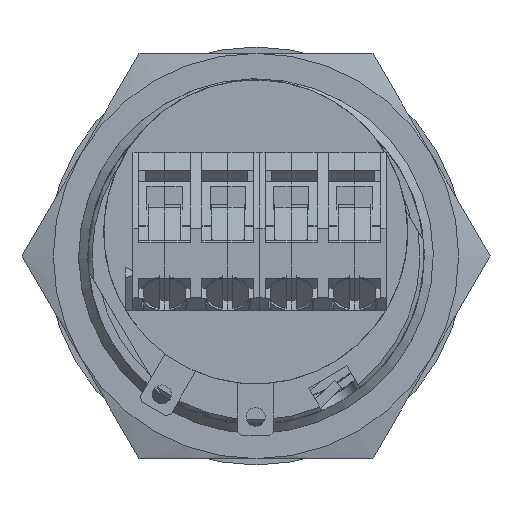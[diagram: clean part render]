
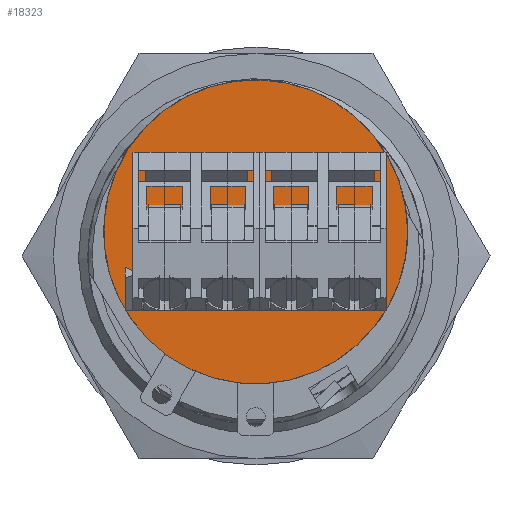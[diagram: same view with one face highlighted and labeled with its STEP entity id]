
A CAD part, front view. The second image highlights one B-rep face of the part: STEP entity #18323.
In plain terms, the highlighted planar face has unit normal (0, -1, 0) as drawn and (0, 0, -1) by its records, which use the part's own axes.
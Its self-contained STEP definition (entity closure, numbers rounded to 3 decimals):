
#62 = EDGE_LOOP ( 'NONE', ( #14973 ) ) ;
#177 = EDGE_CURVE ( 'NONE', #4167, #4167, #2727, .T. ) ;
#392 = CARTESIAN_POINT ( 'NONE',  ( -9., 0., 0. ) ) ;
#488 = DIRECTION ( 'NONE',  ( -1., 0., 0. ) ) ;
#813 = CARTESIAN_POINT ( 'NONE',  ( 7.5, 0., 0. ) ) ;
#937 = DIRECTION ( 'NONE',  ( 0., 0., 1. ) ) ;
#2149 = CARTESIAN_POINT ( 'NONE',  ( 6., 0., 0. ) ) ;
#2265 = EDGE_LOOP ( 'NONE', ( #9477 ) ) ;
#2424 = EDGE_CURVE ( 'NONE', #7995, #7995, #3321, .T. ) ;
#2720 = CARTESIAN_POINT ( 'NONE',  ( 0., 0., 0. ) ) ;
#2727 = CIRCLE ( 'NONE', #6446, 12. ) ;
#3321 = CIRCLE ( 'NONE', #10865, 1.5 ) ;
#3518 = CARTESIAN_POINT ( 'NONE',  ( 1.7, 0., 0. ) ) ;
#3964 = CARTESIAN_POINT ( 'NONE',  ( 2.5, 0., 0. ) ) ;
#4167 = VERTEX_POINT ( 'NONE', #5212 ) ;
#5150 = DIRECTION ( 'NONE',  ( -1., 0., 0. ) ) ;
#5212 = CARTESIAN_POINT ( 'NONE',  ( 12., 0., 0. ) ) ;
#5707 = CARTESIAN_POINT ( 'NONE',  ( 0., 0., 0. ) ) ;
#5782 = DIRECTION ( 'NONE',  ( 0., 0., 1. ) ) ;
#6217 = VERTEX_POINT ( 'NONE', #3518 ) ;
#6446 = AXIS2_PLACEMENT_3D ( 'NONE', #5707, #5782, #17103 ) ;
#6840 = DIRECTION ( 'NONE',  ( -1., 0., 0. ) ) ;
#6861 = CARTESIAN_POINT ( 'NONE',  ( -4., 0., 0. ) ) ;
#7496 = VERTEX_POINT ( 'NONE', #392 ) ;
#7640 = EDGE_CURVE ( 'NONE', #6217, #6217, #16331, .T. ) ;
#7995 = VERTEX_POINT ( 'NONE', #6861 ) ;
#8081 = AXIS2_PLACEMENT_3D ( 'NONE', #14443, #20651, #5150 ) ;
#8245 = VERTEX_POINT ( 'NONE', #2149 ) ;
#8612 = DIRECTION ( 'NONE',  ( 0., 0., -1. ) ) ;
#9037 = EDGE_CURVE ( 'NONE', #7496, #7496, #16151, .T. ) ;
#9477 = ORIENTED_EDGE ( 'NONE', *, *, #12340, .F. ) ;
#10015 = DIRECTION ( 'NONE',  ( 0., 0., -1. ) ) ;
#10865 = AXIS2_PLACEMENT_3D ( 'NONE', #14974, #10015, #6840 ) ;
#12058 = EDGE_LOOP ( 'NONE', ( #14164 ) ) ;
#12162 = DIRECTION ( 'NONE',  ( 0., 0., -1. ) ) ;
#12340 = EDGE_CURVE ( 'NONE', #8245, #8245, #15776, .T. ) ;
#12723 = FACE_BOUND ( 'NONE', #62, .T. ) ;
#13744 = FACE_BOUND ( 'NONE', #14122, .T. ) ;
#13792 = DIRECTION ( 'NONE',  ( -1., 0., 0. ) ) ;
#13985 = DIRECTION ( 'NONE',  ( 1., 0., 0. ) ) ;
#14122 = EDGE_LOOP ( 'NONE', ( #16277 ) ) ;
#14164 = ORIENTED_EDGE ( 'NONE', *, *, #177, .F. ) ;
#14443 = CARTESIAN_POINT ( 'NONE',  ( -7.5, 0., 0. ) ) ;
#14973 = ORIENTED_EDGE ( 'NONE', *, *, #9037, .F. ) ;
#14974 = CARTESIAN_POINT ( 'NONE',  ( -2.5, 0., 0. ) ) ;
#15591 = AXIS2_PLACEMENT_3D ( 'NONE', #2720, #937, #13985 ) ;
#15672 = ORIENTED_EDGE ( 'NONE', *, *, #7640, .F. ) ;
#15750 = PLANE ( 'NONE',  #15591 ) ;
#15776 = CIRCLE ( 'NONE', #19102, 1.5 ) ;
#16151 = CIRCLE ( 'NONE', #8081, 1.5 ) ;
#16277 = ORIENTED_EDGE ( 'NONE', *, *, #2424, .F. ) ;
#16331 = CIRCLE ( 'NONE', #19016, 0.8 ) ;
#16507 = FACE_OUTER_BOUND ( 'NONE', #12058, .T. ) ;
#17103 = DIRECTION ( 'NONE',  ( 1., 0., 0. ) ) ;
#18025 = FACE_BOUND ( 'NONE', #2265, .T. ) ;
#18323 = ADVANCED_FACE ( 'NONE', ( #18025, #19262, #13744, #12723, #16507 ), #15750, .F. ) ;
#18584 = EDGE_LOOP ( 'NONE', ( #15672 ) ) ;
#19016 = AXIS2_PLACEMENT_3D ( 'NONE', #3964, #8612, #488 ) ;
#19102 = AXIS2_PLACEMENT_3D ( 'NONE', #813, #12162, #13792 ) ;
#19262 = FACE_BOUND ( 'NONE', #18584, .T. ) ;
#20651 = DIRECTION ( 'NONE',  ( 0., 0., -1. ) ) ;
